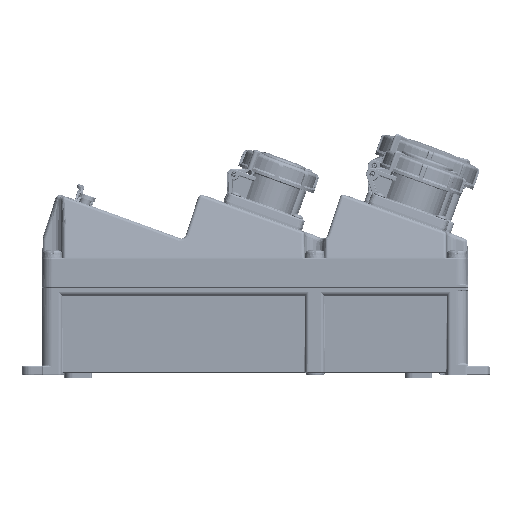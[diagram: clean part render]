
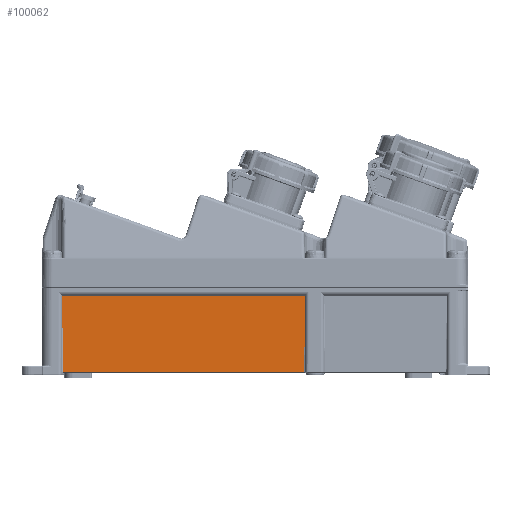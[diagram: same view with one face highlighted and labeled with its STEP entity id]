
A CAD part, left-side view. The second image highlights one B-rep face of the part: STEP entity #100062.
In plain terms, the highlighted planar face has unit normal (-1, 0, -0.018).
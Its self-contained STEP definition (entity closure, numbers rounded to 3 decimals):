
#7035=DIRECTION('',(0.,-1.,0.));
#7036=VECTOR('',#7035,221.309);
#7037=CARTESIAN_POINT('',(3.779,370.655,2.983));
#7038=LINE('43903',#7037,#7036);
#8162=DIRECTION('',(-0.017,0.01,1.));
#8163=VECTOR('',#8162,69.263);
#8164=CARTESIAN_POINT('',(3.779,370.655,2.983));
#8165=LINE('44111',#8164,#8163);
#8166=DIRECTION('',(0.017,0.01,-1.));
#8167=VECTOR('',#8166,69.263);
#8168=CARTESIAN_POINT('',(2.57,148.647,72.232));
#8169=LINE('44108',#8168,#8167);
#8204=DIRECTION('',(0.,1.,0.));
#8205=VECTOR('',#8204,222.705);
#8206=CARTESIAN_POINT('',(2.57,148.647,72.232));
#8207=LINE('44112',#8206,#8205);
#72818=CARTESIAN_POINT('',(3.779,149.345,2.983));
#72819=VERTEX_POINT('',#72818);
#72821=CARTESIAN_POINT('',(3.779,370.655,2.983));
#72822=VERTEX_POINT('',#72821);
#73032=CARTESIAN_POINT('',(2.57,148.647,72.232));
#73033=VERTEX_POINT('',#73032);
#73035=CARTESIAN_POINT('',(2.57,371.353,72.232));
#73036=VERTEX_POINT('',#73035);
#100049=CARTESIAN_POINT('',(3.796,373.125,2.));
#100050=DIRECTION('',(-1.,0.,-0.017));
#100051=DIRECTION('',(-0.017,0.,1.));
#100052=AXIS2_PLACEMENT_3D('',#100049,#100050,#100051);
#100053=PLANE('55531',#100052);
#100054=ORIENTED_EDGE('43903',*,*,#97632,.F.);
#100056=ORIENTED_EDGE('44111',*,*,#100055,.T.);
#100058=ORIENTED_EDGE('44112',*,*,#100057,.F.);
#100059=ORIENTED_EDGE('44108',*,*,#100032,.T.);
#100060=EDGE_LOOP('55531',(#100054,#100056,#100058,#100059));
#100061=FACE_OUTER_BOUND('55531',#100060,.F.);
#97632=EDGE_CURVE('43903',#72822,#72819,#7038,.T.);
#100032=EDGE_CURVE('44108',#73033,#72819,#8169,.T.);
#100055=EDGE_CURVE('44111',#72822,#73036,#8165,.T.);
#100057=EDGE_CURVE('44112',#73033,#73036,#8207,.T.);
#100062=ADVANCED_FACE('55531',(#100061),#100053,.T.);
